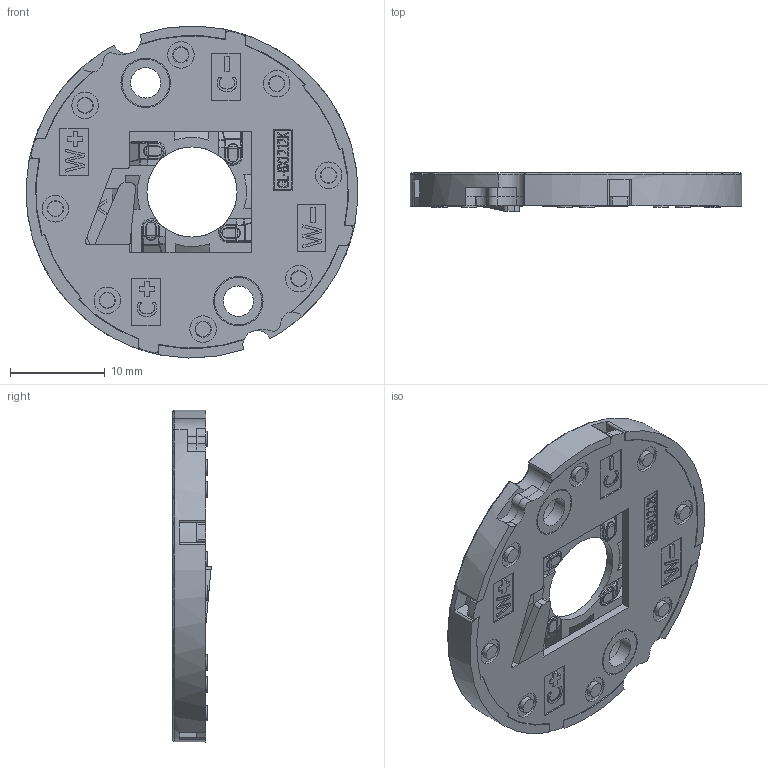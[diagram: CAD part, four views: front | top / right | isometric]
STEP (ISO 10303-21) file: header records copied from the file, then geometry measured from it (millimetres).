
FILE_DESCRIPTION(/* description */ (''),/* implementation_level */ '2;1');
FILE_NAME(/* name */ 'C:\Users\CS\Desktop\BXHD-1212-095规格图.stp',/* time_stamp */ '2024-10-15T13:55:35+08:00',/* author */ ('CS'),/* organization */ (''),/* preprocessor_version */ 'ST-DEVELOPER v18',/* originating_system */ 'Autodesk Inventor 2020',/* authorisation */ '');
FILE_SCHEMA (('AUTOMOTIVE_DESIGN { 1 0 10303 214 3 1 1 }'));
Length unit declared in the file: millimetre
Products named in the file (4): GL-BX1212K; BX1212K-1（20230613 版本三 加高铆柱0.
1mm）; BX1212K-3（20230422）; 1830-2G（规格图用）
Assembly tree (6 placements, depth 2):
  GL-BX1212K
    BX1212K-1（20230613 版本三 加高铆柱0.
1mm）
    BX1212K-3（20230422）
    1830-2G（规格图用）  x4
Bounding box: 34.98 x 4.05 x 34.99 mm (x, y, z)
Volume: 2241.9 mm3; surface area: 4538.6 mm2
Topology: 6 solids, 6 shells, 1335 faces, 3534 edges, 2291 vertices
Faces by surface type: plane 770, cylinder 272, bspline 232, cone 33, torus 28
Full cylindrical faces by diameter (mm): 1.6 x8, 1.7 x8, 2.7 x6, 2.8 x8, 3.2 x2, 5 x2, 5.2 x2, 6 x2, 9.5 x1
Entity records: 35852 total; most frequent: CARTESIAN_POINT 8860, ORIENTED_EDGE 5952, DIRECTION 4928, EDGE_CURVE 2976, LINE 2046, VECTOR 2046, VERTEX_POINT 1970, AXIS2_PLACEMENT_3D 1441
